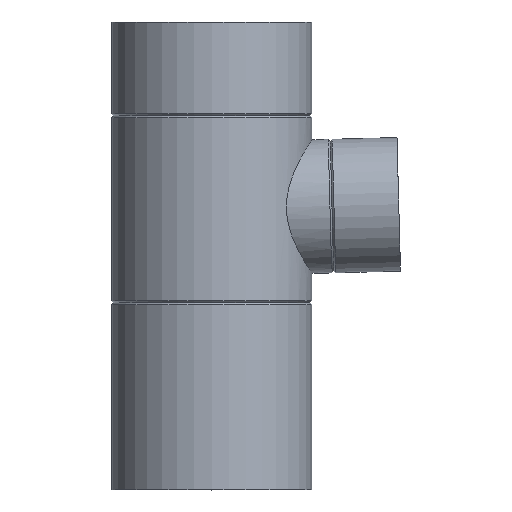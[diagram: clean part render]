
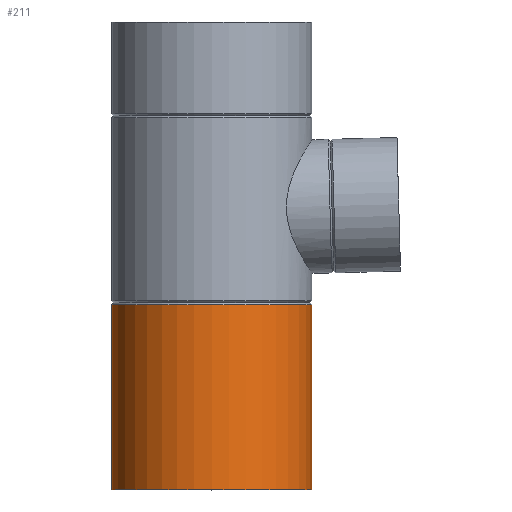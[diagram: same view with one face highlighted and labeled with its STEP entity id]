
A CAD part, top view. The second image highlights one B-rep face of the part: STEP entity #211.
In plain terms, the highlighted cylindrical face has radius 37.5 mm (diameter 75 mm), a full revolution.
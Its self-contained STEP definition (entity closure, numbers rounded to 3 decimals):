
#23=CYLINDRICAL_SURFACE($,#244,37.5);
#41=FACE_BOUND($,#87,.T.);
#57=FACE_OUTER_BOUND($,#86,.T.);
#86=EDGE_LOOP($,(#169));
#87=EDGE_LOOP($,(#170));
#100=CIRCLE($,#232,37.5);
#106=CIRCLE($,#245,37.5);
#116=VERTEX_POINT($,#403);
#123=VERTEX_POINT($,#489);
#133=EDGE_CURVE($,#116,#116,#100,.T.);
#140=EDGE_CURVE($,#123,#123,#106,.T.);
#169=ORIENTED_EDGE($,*,*,#133,.T.);
#170=ORIENTED_EDGE($,*,*,#140,.F.);
#211=ADVANCED_FACE($,(#57,#41),#23,.T.);
#232=AXIS2_PLACEMENT_3D($,#404,#280,#281);
#244=AXIS2_PLACEMENT_3D($,#488,#304,#305);
#245=AXIS2_PLACEMENT_3D($,#490,#306,#307);
#280=DIRECTION('center_axis',(0.,-1.,0.));
#281=DIRECTION('ref_axis',(1.,0.,0.));
#304=DIRECTION('center_axis',(0.,1.,0.));
#305=DIRECTION('ref_axis',(1.,0.,0.));
#306=DIRECTION('center_axis',(0.,-1.,0.));
#307=DIRECTION('ref_axis',(1.,0.,0.));
#403=CARTESIAN_POINT('',(-37.5,69.25,0.));
#404=CARTESIAN_POINT('Origin',(0.,69.25,0.));
#488=CARTESIAN_POINT('Origin',(0.,0.,0.));
#489=CARTESIAN_POINT('',(-37.5,0.,0.));
#490=CARTESIAN_POINT('Origin',(0.,0.,0.));
